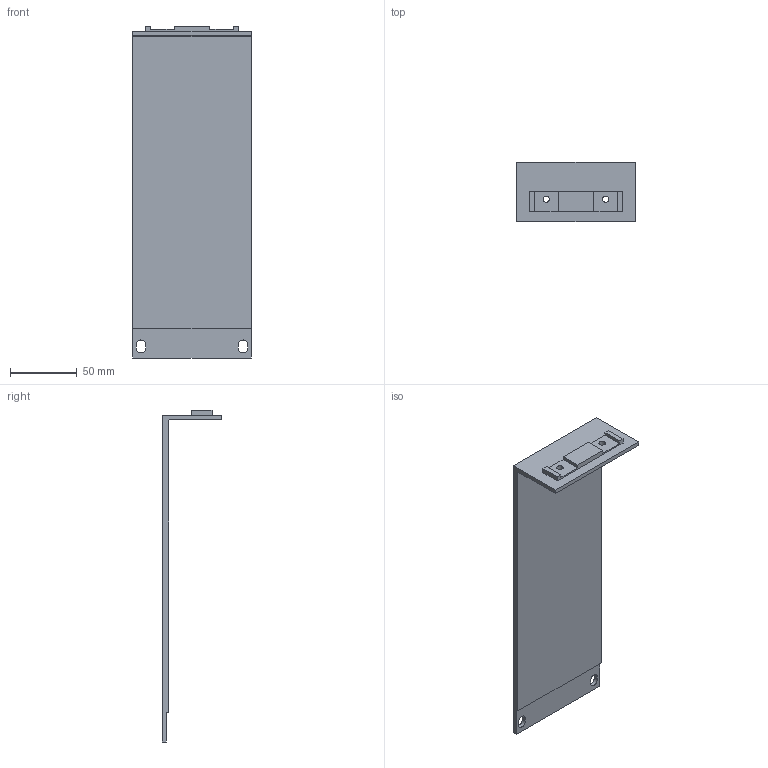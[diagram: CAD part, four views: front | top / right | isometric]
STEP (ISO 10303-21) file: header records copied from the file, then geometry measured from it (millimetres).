
FILE_DESCRIPTION((''),'2;1');
FILE_NAME('4288-1-301','2015-04-28T',('jpeters'),('Keithley Instruments, Inc'),'PRO/ENGINEER BY PARAMETRIC TECHNOLOGY CORPORATION, 2012480','PRO/ENGINEER BY PARAMETRIC TECHNOLOGY CORPORATION, 2012480','');
FILE_SCHEMA(('CONFIG_CONTROL_DESIGN'));
Length unit declared in the file: inch
Products named in the file (1): 4288-1-301
Bounding box: 88.11 x 44.45 x 247.9 mm (x, y, z)
Volume: 113816.4 mm3; surface area: 53964.9 mm2
Topology: 1 solids, 1 shells, 36 faces, 99 edges, 66 vertices
Faces by surface type: plane 27, cylinder 9
Entity records: 1197 total; most frequent: CARTESIAN_POINT 201, ORIENTED_EDGE 198, DIRECTION 189, EDGE_CURVE 99, VECTOR 81, LINE 81, VERTEX_POINT 66, AXIS2_PLACEMENT_3D 54
